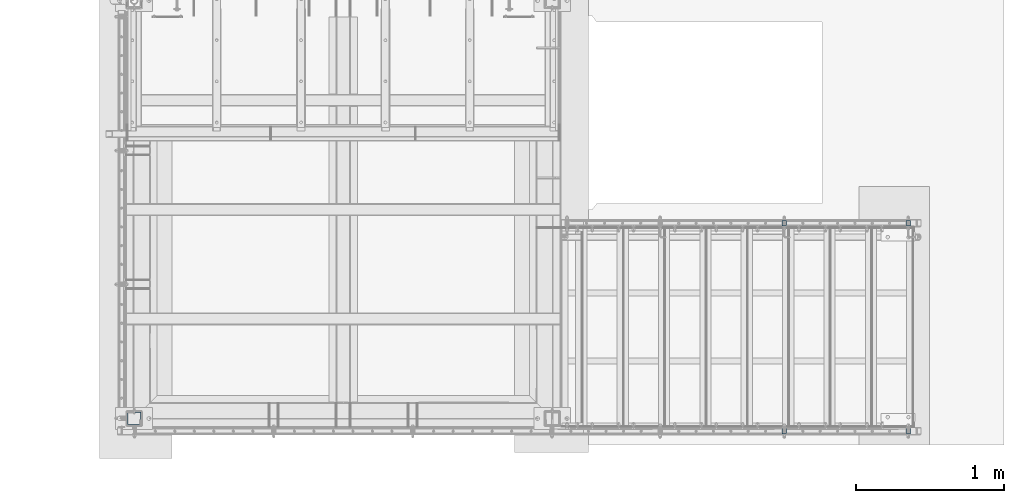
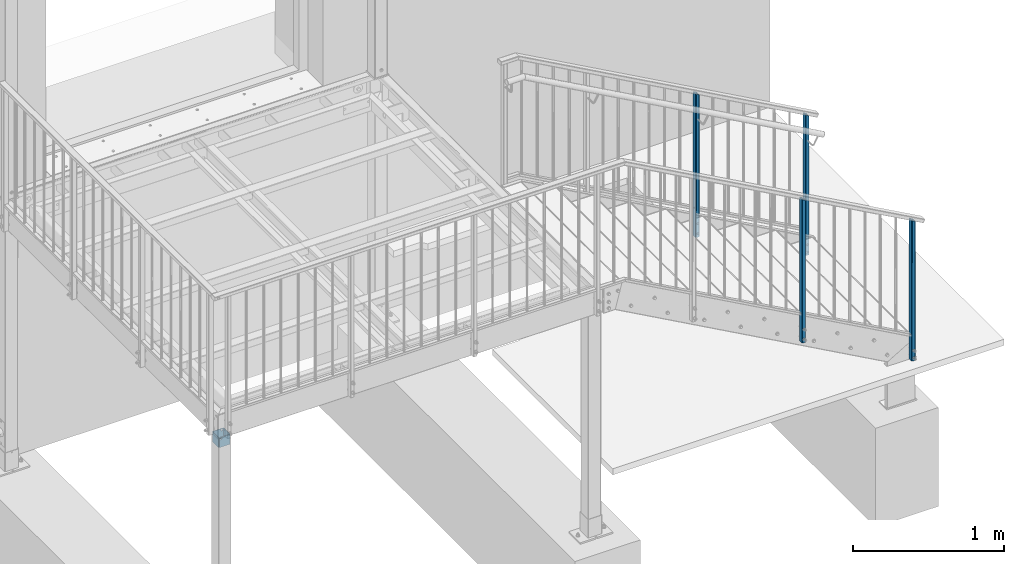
# One storey, part 3 of 116: 5 columns, 24 openings.
"""IFC2X3 building model written with IfcOpenShell, lengths in millimetres."""

from ifc_helpers import new_model, entity, si_unit, converted_unit, frame, frame_2d, origin, origin_with_axes, origin_2d, origin_2d_with_axis, place, context, project, spatial, hollow_rectangle, circle, extrude, clip, halfspace, material, element, save


model = new_model("IFC2X3")

# Units and contexts
model_context = context("Model", 3, precision=1e-09, world=origin_with_axes())
ifc_project = project(units=[si_unit("LENGTHUNIT", "METRE", prefix="MILLI"), si_unit("AREAUNIT", "SQUARE_METRE"), si_unit("VOLUMEUNIT", "CUBIC_METRE"), converted_unit("PLANEANGLEUNIT", "DEGREE", entity("IfcPlaneAngleMeasure", 0.01745329), si_unit("PLANEANGLEUNIT", "RADIAN"), dimensions=[0, 0, 0, 0, 0, 0, 0])], contexts=[model_context])

# Site, building, storey
site_placement = place(None, origin_with_axes())
site = spatial("IfcSite", under=ifc_project, at=site_placement, Name="Site", CompositionType="ELEMENT")
building_placement = place(site_placement, origin_with_axes())
building = spatial("IfcBuilding", under=site, at=building_placement, Name="Struktur 1", CompositionType="ELEMENT")
storey_placement = place(building_placement, origin_with_axes())
storey = spatial("IfcBuildingStorey", under=building, at=storey_placement, Name="Default Storey", CompositionType="ELEMENT", Elevation=0.0)

# Column, openings
ifc_material = material(Name="S235JR")
column_1_placement = place(None, frame((60577.049134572, 9047.359883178, -1393.0), z_axis=(0.0, 0.0, -1.0), x_axis=(1.0, 0.0, 0.0)))
column_1 = element("IfcColumn", 1, at=column_1_placement, inside=storey, material=ifc_material, Name="-", ObjectType="-", context=model_context, shape_type="Clipping", body=[
    clip(extrude(hollow_rectangle(XDim=30.0, YDim=40.0, WallThickness=3.0, InnerFilletRadius=3.0, OuterFilletRadius=6.0, at=origin_2d()), origin(), (0.0, 0.0, -1.0), 1158.660016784), halfspace(frame((-46479.386950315, 9047.359883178, -26859.744590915), z_axis=(-0.484315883, 0.0, 0.874893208), x_axis=(0.0, 1.0, 0.0)), True)),
])
opening_1_placement = place(column_1_placement, frame((-11.5, 0.0, -488.0), z_axis=(-1.0, 0.0, 0.0), x_axis=(0.0, 1.0, 0.0)))
element("IfcOpeningElement", 2, at=opening_1_placement, cuts=column_1, ObjectType="Opening", context=model_context, shape_type="SweptSolid", body=[
    extrude(circle(Radius=5.001, at=frame_2d((0.0, -281.031462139), x_axis=(1.0, 0.0))), origin(), (0.0, 0.0, 1.0), 4.0),
])
opening_2_placement = place(column_1_placement, frame((-8.001, -16.5, -25.0), z_axis=(0.0, 1.0, 0.0), x_axis=(-1.0, 0.0, 0.0)))
element("IfcOpeningElement", 3, at=opening_2_placement, cuts=column_1, ObjectType="Opening", context=model_context, shape_type="SweptSolid", body=[
    extrude(circle(Radius=8.001, at=frame_2d((-8.001, 0.0), x_axis=(1.0, 0.0))), origin(), (0.0, 0.0, -1.0), 4.0),
])
opening_3_placement = place(column_1_placement, frame((-8.001, 20.5, -25.0), z_axis=(0.0, 1.0, 0.0), x_axis=(-1.0, 0.0, 0.0)))
element("IfcOpeningElement", 4, at=opening_3_placement, cuts=column_1, ObjectType="Opening", context=model_context, shape_type="SweptSolid", body=[
    extrude(circle(Radius=8.001, at=frame_2d((-8.001, 0.0), x_axis=(1.0, 0.0))), origin(), (0.0, 0.0, -1.0), 4.0),
])
opening_4_placement = place(column_1_placement, frame((-8.001, -16.5, -85.0), z_axis=(0.0, 1.0, 0.0), x_axis=(-1.0, 0.0, 0.0)))
element("IfcOpeningElement", 5, at=opening_4_placement, cuts=column_1, ObjectType="Opening", context=model_context, shape_type="SweptSolid", body=[
    extrude(circle(Radius=8.001, at=frame_2d((-8.001, 0.0), x_axis=(1.0, 0.0))), origin(), (0.0, 0.0, -1.0), 4.0),
])
opening_5_placement = place(column_1_placement, frame((-8.001, 20.5, -85.0), z_axis=(0.0, 1.0, 0.0), x_axis=(-1.0, 0.0, 0.0)))
element("IfcOpeningElement", 6, at=opening_5_placement, cuts=column_1, ObjectType="Opening", context=model_context, shape_type="SweptSolid", body=[
    extrude(circle(Radius=8.001, at=frame_2d((-8.001, 0.0), x_axis=(1.0, 0.0))), origin(), (0.0, 0.0, -1.0), 4.0),
])

column_2_placement = place(None, frame((59737.049134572, 9047.359883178, -953.0), z_axis=(0.0, 0.0, -1.0), x_axis=(1.0, 0.0, 0.0)))
column_2 = element("IfcColumn", 7, at=column_2_placement, inside=storey, material=ifc_material, Name="-", ObjectType="-", context=model_context, shape_type="Clipping", body=[
    clip(extrude(hollow_rectangle(XDim=30.0, YDim=40.0, WallThickness=3.0, InnerFilletRadius=3.0, OuterFilletRadius=6.0, at=origin_2d()), origin(), (0.0, 0.0, -1.0), 1183.660016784), halfspace(frame((-45639.386950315, 9047.359883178, -26419.744590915), z_axis=(-0.484315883, 0.0, 0.874893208), x_axis=(0.0, 1.0, 0.0)), True)),
])
opening_6_placement = place(column_2_placement, frame((-11.5, 0.0, -513.0), z_axis=(-1.0, 0.0, 0.0), x_axis=(0.0, 1.0, 0.0)))
element("IfcOpeningElement", 8, at=opening_6_placement, cuts=column_2, ObjectType="Opening", context=model_context, shape_type="SweptSolid", body=[
    extrude(circle(Radius=5.001, at=frame_2d((0.0, -281.031462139), x_axis=(1.0, 0.0))), origin(), (0.0, 0.0, 1.0), 4.0),
])
opening_7_placement = place(column_2_placement, frame((11.5, -5.001, -215.360841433), z_axis=(-1.0, 0.0, 0.0), x_axis=(0.0, -1.0, 0.0)))
element("IfcOpeningElement", 9, at=opening_7_placement, cuts=column_2, ObjectType="Opening", context=model_context, shape_type="SweptSolid", body=[
    extrude(circle(Radius=5.001, at=frame_2d((-5.001, 0.0), x_axis=(1.0, 0.0))), origin(), (0.0, 0.0, -1.0), 4.0),
])
opening_8_placement = place(column_2_placement, frame((-8.001, -16.5, -110.0), z_axis=(0.0, 1.0, 0.0), x_axis=(-1.0, 0.0, 0.0)))
element("IfcOpeningElement", 10, at=opening_8_placement, cuts=column_2, ObjectType="Opening", context=model_context, shape_type="SweptSolid", body=[
    extrude(circle(Radius=8.001, at=frame_2d((-8.001, 0.0), x_axis=(1.0, 0.0))), origin(), (0.0, 0.0, -1.0), 4.0),
])
opening_9_placement = place(column_2_placement, frame((-8.001, 20.5, -110.0), z_axis=(0.0, 1.0, 0.0), x_axis=(-1.0, 0.0, 0.0)))
element("IfcOpeningElement", 11, at=opening_9_placement, cuts=column_2, ObjectType="Opening", context=model_context, shape_type="SweptSolid", body=[
    extrude(circle(Radius=8.001, at=frame_2d((-8.001, 0.0), x_axis=(1.0, 0.0))), origin(), (0.0, 0.0, -1.0), 4.0),
])
opening_10_placement = place(column_2_placement, frame((-8.001, -16.5, -30.0), z_axis=(0.0, 1.0, 0.0), x_axis=(-1.0, 0.0, 0.0)))
element("IfcOpeningElement", 12, at=opening_10_placement, cuts=column_2, ObjectType="Opening", context=model_context, shape_type="SweptSolid", body=[
    extrude(circle(Radius=8.001, at=frame_2d((-8.001, 0.0), x_axis=(1.0, 0.0))), origin(), (0.0, 0.0, -1.0), 4.0),
])
opening_11_placement = place(column_2_placement, frame((-8.001, 20.5, -30.0), z_axis=(0.0, 1.0, 0.0), x_axis=(-1.0, 0.0, 0.0)))
element("IfcOpeningElement", 13, at=opening_11_placement, cuts=column_2, ObjectType="Opening", context=model_context, shape_type="SweptSolid", body=[
    extrude(circle(Radius=8.001, at=frame_2d((-8.001, 0.0), x_axis=(1.0, 0.0))), origin(), (0.0, 0.0, -1.0), 4.0),
])

column_3_placement = place(None, frame((60577.049134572, 10455.357883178, -1393.0), z_axis=(0.0, 0.0, 1.0), x_axis=(1.0, 0.0, 0.0)))
column_3 = element("IfcColumn", 14, at=column_3_placement, inside=storey, material=ifc_material, Name="-", ObjectType="-", context=model_context, shape_type="Clipping", body=[
    clip(extrude(hollow_rectangle(XDim=30.0, YDim=40.0, WallThickness=3.0, InnerFilletRadius=3.0, OuterFilletRadius=6.0, at=origin_2d()), origin(), (0.0, 0.0, 1.0), 1158.660016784), halfspace(frame((-46479.386950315, -10455.357883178, 26859.744590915), z_axis=(-0.484315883, 0.0, -0.874893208), x_axis=(0.0, -1.0, 0.0)), True)),
])
opening_12_placement = place(column_3_placement, frame((-11.5, -5.001, 206.968537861), z_axis=(1.0, 0.0, 0.0), x_axis=(0.0, 1.0, 0.0)))
element("IfcOpeningElement", 15, at=opening_12_placement, cuts=column_3, ObjectType="Opening", context=model_context, shape_type="SweptSolid", body=[
    extrude(circle(Radius=5.001, at=frame_2d((5.001, 0.0), x_axis=(1.0, 0.0))), origin(), (0.0, 0.0, -1.0), 4.0),
])
opening_13_placement = place(column_3_placement, frame((0.0, 20.5, 25.0), z_axis=(0.0, -1.0, 0.0), x_axis=(1.0, 0.0, 0.0)))
element("IfcOpeningElement", 16, at=opening_13_placement, cuts=column_3, ObjectType="Opening", context=model_context, shape_type="SweptSolid", body=[
    extrude(circle(Radius=8.001, at=origin_2d_with_axis()), origin(), (0.0, 0.0, 1.0), 4.0),
])
opening_14_placement = place(column_3_placement, frame((0.0, -16.5, 25.0), z_axis=(0.0, -1.0, 0.0), x_axis=(1.0, 0.0, 0.0)))
element("IfcOpeningElement", 17, at=opening_14_placement, cuts=column_3, ObjectType="Opening", context=model_context, shape_type="SweptSolid", body=[
    extrude(circle(Radius=8.001, at=origin_2d_with_axis()), origin(), (0.0, 0.0, 1.0), 4.0),
])
opening_15_placement = place(column_3_placement, frame((0.0, 20.5, 85.0), z_axis=(0.0, -1.0, 0.0), x_axis=(1.0, 0.0, 0.0)))
element("IfcOpeningElement", 18, at=opening_15_placement, cuts=column_3, ObjectType="Opening", context=model_context, shape_type="SweptSolid", body=[
    extrude(circle(Radius=8.001, at=origin_2d_with_axis()), origin(), (0.0, 0.0, 1.0), 4.0),
])
opening_16_placement = place(column_3_placement, frame((0.0, -16.5, 85.0), z_axis=(0.0, -1.0, 0.0), x_axis=(1.0, 0.0, 0.0)))
element("IfcOpeningElement", 19, at=opening_16_placement, cuts=column_3, ObjectType="Opening", context=model_context, shape_type="SweptSolid", body=[
    extrude(circle(Radius=8.001, at=origin_2d_with_axis()), origin(), (0.0, 0.0, 1.0), 4.0),
])

column_4_placement = place(None, frame((59737.049134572, 10455.357883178, -953.0), z_axis=(0.0, 0.0, 1.0), x_axis=(1.0, 0.0, 0.0)))
column_4 = element("IfcColumn", 20, at=column_4_placement, inside=storey, material=ifc_material, Name="-", ObjectType="-", context=model_context, shape_type="Clipping", body=[
    clip(extrude(hollow_rectangle(XDim=30.0, YDim=40.0, WallThickness=3.0, InnerFilletRadius=3.0, OuterFilletRadius=6.0, at=origin_2d()), origin(), (0.0, 0.0, 1.0), 1183.660016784), halfspace(frame((-45639.386950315, -10455.357883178, 26419.744590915), z_axis=(-0.484315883, 0.0, -0.874893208), x_axis=(0.0, -1.0, 0.0)), True)),
])
opening_17_placement = place(column_4_placement, frame((-11.5, -5.001, 231.968537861), z_axis=(1.0, 0.0, 0.0), x_axis=(0.0, 1.0, 0.0)))
element("IfcOpeningElement", 21, at=opening_17_placement, cuts=column_4, ObjectType="Opening", context=model_context, shape_type="SweptSolid", body=[
    extrude(circle(Radius=5.001, at=frame_2d((5.001, 0.0), x_axis=(1.0, 0.0))), origin(), (0.0, 0.0, -1.0), 4.0),
])
opening_18_placement = place(column_4_placement, frame((11.5, 0.0, 513.0), z_axis=(1.0, 0.0, 0.0), x_axis=(0.0, 1.0, 0.0)))
element("IfcOpeningElement", 22, at=opening_18_placement, cuts=column_4, ObjectType="Opening", context=model_context, shape_type="SweptSolid", body=[
    extrude(circle(Radius=5.001, at=frame_2d((0.0, -297.639158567), x_axis=(1.0, 0.0))), origin(), (0.0, 0.0, 1.0), 4.0),
])
opening_19_placement = place(column_4_placement, frame((0.0, 20.5, 110.0), z_axis=(0.0, -1.0, 0.0), x_axis=(1.0, 0.0, 0.0)))
element("IfcOpeningElement", 23, at=opening_19_placement, cuts=column_4, ObjectType="Opening", context=model_context, shape_type="SweptSolid", body=[
    extrude(circle(Radius=8.001, at=origin_2d_with_axis()), origin(), (0.0, 0.0, 1.0), 4.0),
])
opening_20_placement = place(column_4_placement, frame((0.0, -16.5, 110.0), z_axis=(0.0, -1.0, 0.0), x_axis=(1.0, 0.0, 0.0)))
element("IfcOpeningElement", 24, at=opening_20_placement, cuts=column_4, ObjectType="Opening", context=model_context, shape_type="SweptSolid", body=[
    extrude(circle(Radius=8.001, at=origin_2d_with_axis()), origin(), (0.0, 0.0, 1.0), 4.0),
])
opening_21_placement = place(column_4_placement, frame((0.0, 20.5, 30.0), z_axis=(0.0, -1.0, 0.0), x_axis=(1.0, 0.0, 0.0)))
element("IfcOpeningElement", 25, at=opening_21_placement, cuts=column_4, ObjectType="Opening", context=model_context, shape_type="SweptSolid", body=[
    extrude(circle(Radius=8.001, at=origin_2d_with_axis()), origin(), (0.0, 0.0, 1.0), 4.0),
])
opening_22_placement = place(column_4_placement, frame((0.0, -16.5, 30.0), z_axis=(0.0, -1.0, 0.0), x_axis=(1.0, 0.0, 0.0)))
element("IfcOpeningElement", 26, at=opening_22_placement, cuts=column_4, ObjectType="Opening", context=model_context, shape_type="SweptSolid", body=[
    extrude(circle(Radius=8.001, at=origin_2d_with_axis()), origin(), (0.0, 0.0, 1.0), 4.0),
])

column_5_placement = place(None, frame((55337.049134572, 9132.358883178, -285.0), z_axis=(0.0, 0.0, -1.0), x_axis=(0.0, 1.0, 0.0)))
column_5 = element("IfcColumn", 27, at=column_5_placement, inside=storey, material=ifc_material, Name="-", ObjectType="-", context=model_context, shape_type="SweptSolid", body=[
    extrude(hollow_rectangle(XDim=90.0, YDim=90.0, WallThickness=4.0, InnerFilletRadius=4.0, OuterFilletRadius=8.0, at=origin_2d()), origin(), (0.0, 0.0, -1.0), 80.0),
])
opening_23_placement = place(column_5_placement, frame((-40.5, 0.0, 0.0), z_axis=(-1.0, 0.0, 0.0), x_axis=(0.0, 1.0, 0.0)))
element("IfcOpeningElement", 28, at=opening_23_placement, cuts=column_5, ObjectType="Opening", context=model_context, shape_type="SweptSolid", body=[
    extrude(circle(Radius=7.001, at=frame_2d((-28.0, 68.0), x_axis=(1.0, 0.0))), origin(), (0.0, 0.0, 1.0), 5.0),
])
opening_24_placement = place(column_5_placement, frame((40.5, 0.0, 0.0), z_axis=(1.0, 0.0, 0.0), x_axis=(0.0, -1.0, 0.0)))
element("IfcOpeningElement", 29, at=opening_24_placement, cuts=column_5, ObjectType="Opening", context=model_context, shape_type="SweptSolid", body=[
    extrude(circle(Radius=7.001, at=frame_2d((-28.0, 68.0), x_axis=(1.0, 0.0))), origin(), (0.0, 0.0, 1.0), 5.0),
])

save(model, "model.ifc")
